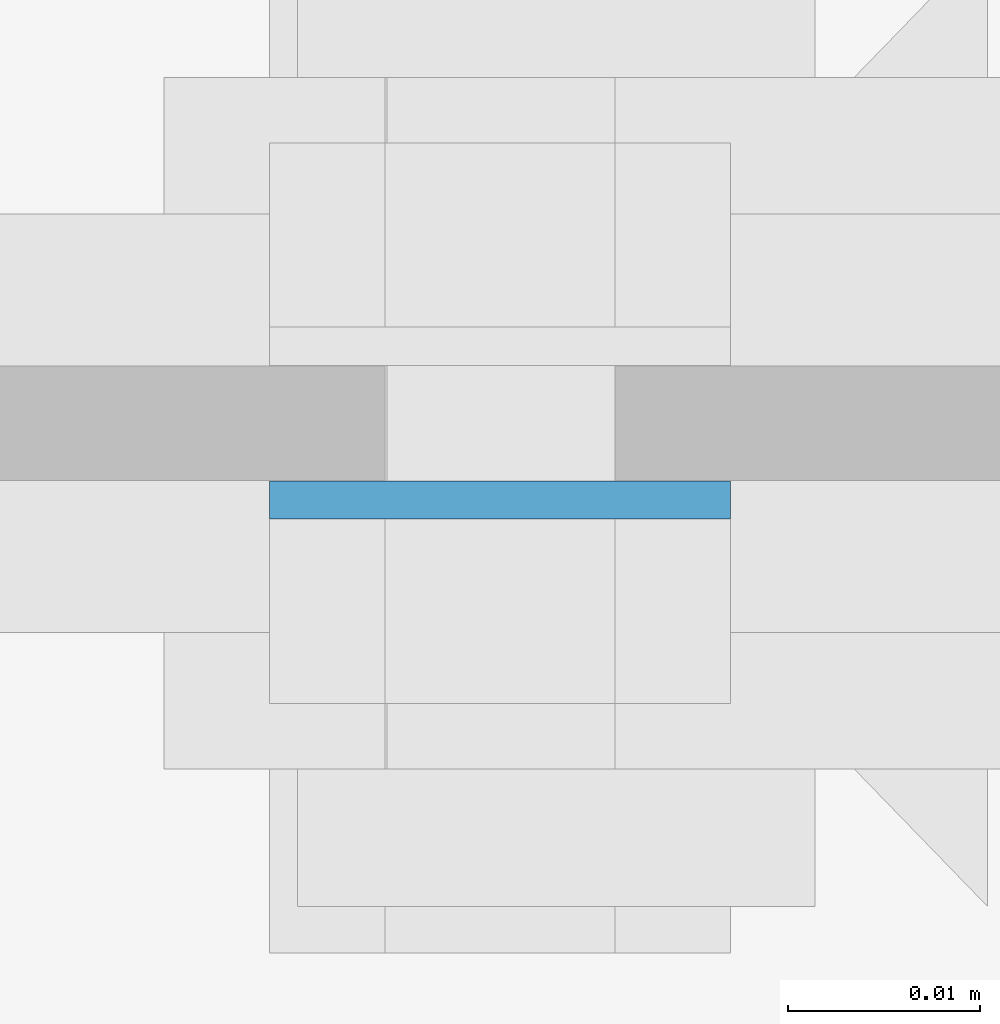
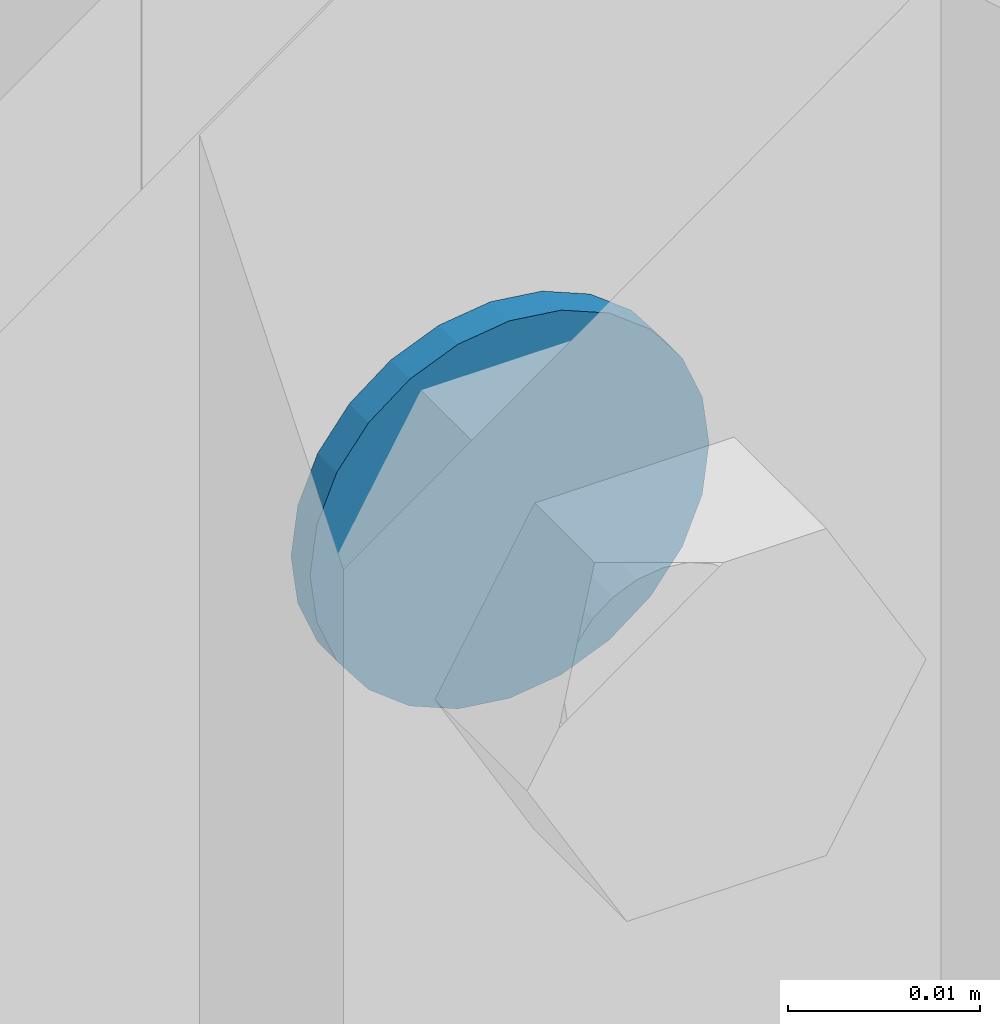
# One storey, part 136 of 251: 1 mechanical fastener.
"""IFC4 building model written with IfcOpenShell, lengths in metres."""

from ifc_helpers import new_model, si_unit, frame, origin_with_axes, place, context, project, spatial, polyline, outline, extrude, type_object, element, save


model = new_model("IFC4")

# Units and contexts
model_context = context("Model", 3, precision=1e-05, world=origin_with_axes())
ifc_project = project(units=[si_unit("LENGTHUNIT", "METRE"), si_unit("AREAUNIT", "SQUARE_METRE"), si_unit("VOLUMEUNIT", "CUBIC_METRE"), si_unit("MASSUNIT", "GRAM", prefix="KILO"), si_unit("TIMEUNIT", "SECOND"), si_unit("PLANEANGLEUNIT", "RADIAN"), si_unit("SOLIDANGLEUNIT", "STERADIAN"), si_unit("THERMODYNAMICTEMPERATUREUNIT", "DEGREE_CELSIUS")], contexts=[model_context])

# Site, building, storey
placement_1 = place(None, origin_with_axes())
site = spatial("IfcSite", under=ifc_project, at=placement_1, Name="Italia", CompositionType="ELEMENT")
building = spatial("IfcBuilding", under=site, at=placement_1, Name="Deposito", CompositionType="ELEMENT")
storey = spatial("IfcBuildingStorey", under=building, at=placement_1, Name="Storey 0", CompositionType="ELEMENT", Elevation=0.0)

# Mechanical fastener
mechanical_fastener_type = type_object("IfcMechanicalFastenerType", Name="Collegamento -072_-073", PredefinedType="BOLT")
placement_2 = place(placement_1, origin_with_axes())
mechanical_fastener_placement = place(placement_2, origin_with_axes())
element("IfcMechanicalFastener", 1, at=mechanical_fastener_placement, inside=storey, type_object=mechanical_fastener_type, Name="Collegamento -072_-073", NominalDiameter=0.024, context=model_context, shape_type="SweptSolid", body=[
    extrude(outline(polyline([(0.0, 0.0), (-0.000409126, -0.00310564), (-0.00160789, -0.00600004), (-0.00351477, -0.00848532), (-0.00600004, -0.0103922), (-0.00889444, -0.011591), (-0.0120001, -0.0120001), (-0.0151057, -0.011591), (-0.0180001, -0.0103922), (-0.0204854, -0.00848532), (-0.0223923, -0.00600004), (-0.023591, -0.00310564), (-0.0240002, 0.0), (-0.023591, 0.00310564), (-0.0223923, 0.00600004), (-0.0204854, 0.00848532), (-0.0180001, 0.0103922), (-0.0151057, 0.011591), (-0.0120001, 0.0120001), (-0.00889444, 0.011591), (-0.00600004, 0.0103922), (-0.00351477, 0.00848532), (-0.00160789, 0.00600004), (-0.000409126, 0.00310564), (0.0, 0.0)])), frame((6.01, 14.995, 6.85518), z_axis=(0.0, 1.0, 0.0), x_axis=(-1.0, 0.0, 0.0)), (0.0, 0.0, 1.0), 0.00200081),
])

save(model, "model.ifc")
